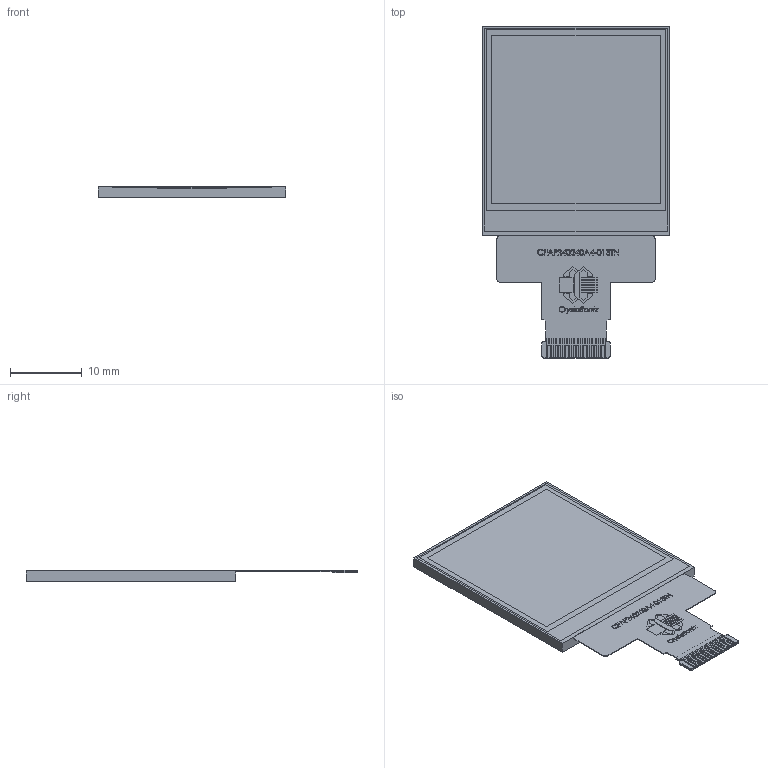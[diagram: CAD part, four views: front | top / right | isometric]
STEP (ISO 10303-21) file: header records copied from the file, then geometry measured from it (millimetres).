
FILE_DESCRIPTION (( 'STEP AP214' ), '1' );
FILE_NAME ('CFAF240240A4-013TN.STEP', '2025-06-24T19:15:50', ( '' ), ( '' ), 'SwSTEP 2.0', 'SolidWorks 2021', '' );
FILE_SCHEMA (( 'AUTOMOTIVE_DESIGN' ));
Length unit declared in the file: millimetre
Products named in the file (1): CFAF240240A4-013TN
Bounding box: 26 x 46.15 x 1.55 mm (x, y, z)
Volume: 1167.4 mm3; surface area: 2272.2 mm2
Topology: 21 solids, 21 shells, 662 faces, 1719 edges, 1150 vertices
Faces by surface type: plane 529, bspline 117, cylinder 16
Entity records: 34214 total; most frequent: CARTESIAN_POINT 11273, ORIENTED_EDGE 3438, DIRECTION 2609, EDGE_CURVE 1719, VECTOR 1453, LINE 1453, VERTEX_POINT 1150, EDGE_LOOP 713
